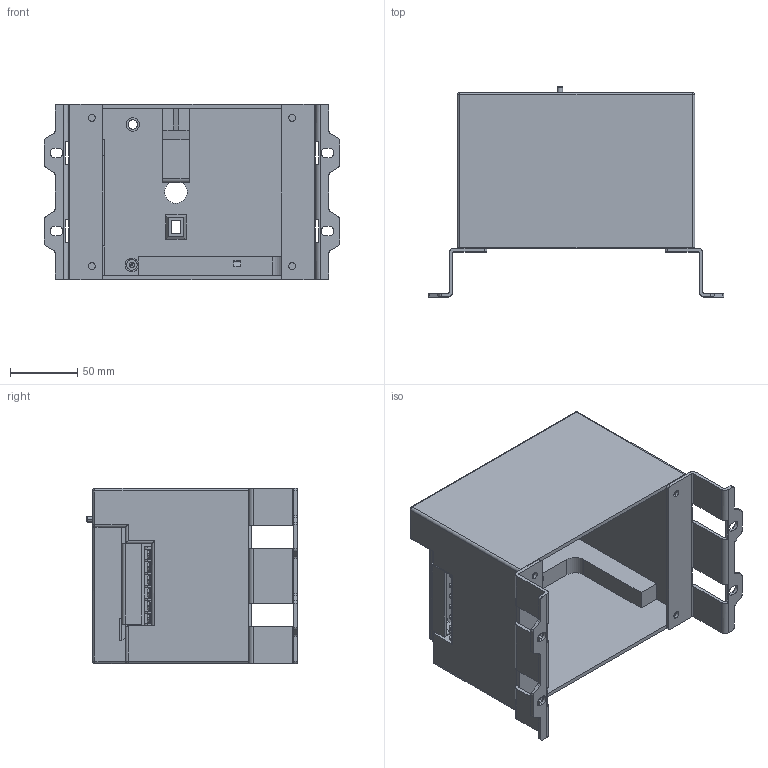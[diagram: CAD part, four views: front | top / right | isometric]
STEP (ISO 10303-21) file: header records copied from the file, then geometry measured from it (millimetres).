
FILE_DESCRIPTION (( 'STEP AP203' ), '1' );
FILE_NAME ('TGM1N-630 电操外形(大体积）.STEP', '2026-06-11T02:37:38', ( 'Windows 用户' ), ( 'Microsoft' ), 'SwSTEP 2.0', 'SolidWorks 2022', '' );
FILE_SCHEMA (( 'CONFIG_CONTROL_DESIGN' ));
Length unit declared in the file: millimetre
Products named in the file (3): TGM1N-630 电操外形(大体积）; 諉盄湮傷赽
Assembly tree (2 placements, depth 2):
  TGM1N-630 电操外形(大体积）
    TGM1N-630 电操外形(大体积）
    諉盄湮傷赽
Bounding box: 219 x 155.8 x 130 mm (x, y, z)
Volume: 343618.5 mm3; surface area: 244474.5 mm2
Topology: 8 solids, 8 shells, 580 faces, 1592 edges, 1040 vertices
Faces by surface type: plane 396, cylinder 152, torus 24, bspline 5, cone 2, sphere 1
Entity records: 19292 total; most frequent: CARTESIAN_POINT 4016, ORIENTED_EDGE 3182, DIRECTION 3060, EDGE_CURVE 1591, LINE 1104, VECTOR 1104, VERTEX_POINT 1040, AXIS2_PLACEMENT_3D 978
